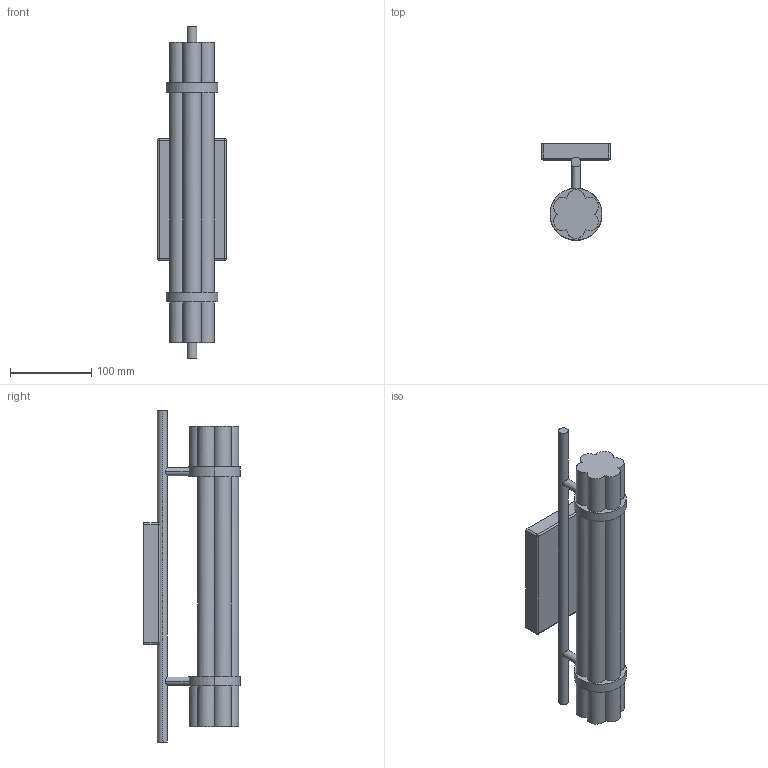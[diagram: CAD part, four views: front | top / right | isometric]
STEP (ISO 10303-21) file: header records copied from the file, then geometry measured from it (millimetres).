
FILE_DESCRIPTION (( 'STEP AP214' ), '1' );
FILE_NAME ('TASTA_A1355.STEP', '2026-01-21T10:52:53', ( '' ), ( '' ), 'SwSTEP 2.0', 'SolidWorks 2023', '' );
FILE_SCHEMA (( 'AUTOMOTIVE_DESIGN' ));
Length unit declared in the file: millimetre
Products named in the file (1): TASTA_A1355
Bounding box: 85 x 118.97 x 409 mm (x, y, z)
Surface area: 154988.3 mm2 (no closed solid volume)
Topology: 0 solids, 7 shells, 209 faces, 475 edges, 278 vertices
Faces by surface type: plane 162, cylinder 43, sphere 4
Entity records: 7524 total; most frequent: CARTESIAN_POINT 3750, ORIENTED_EDGE 884, DIRECTION 484, EDGE_CURVE 471, B_SPLINE_CURVE_WITH_KNOTS 425, VERTEX_POINT 278, AXIS2_PLACEMENT_3D 228, EDGE_LOOP 212
